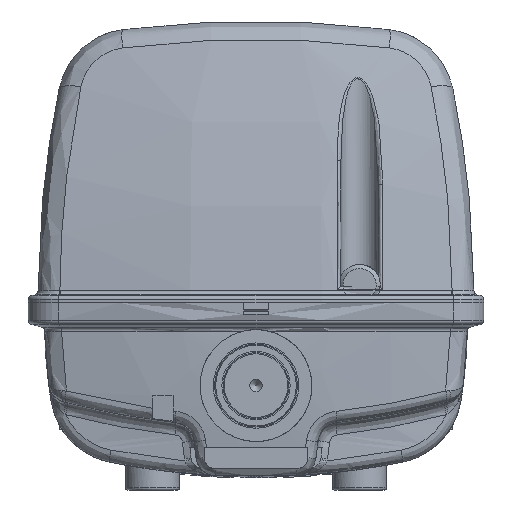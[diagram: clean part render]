
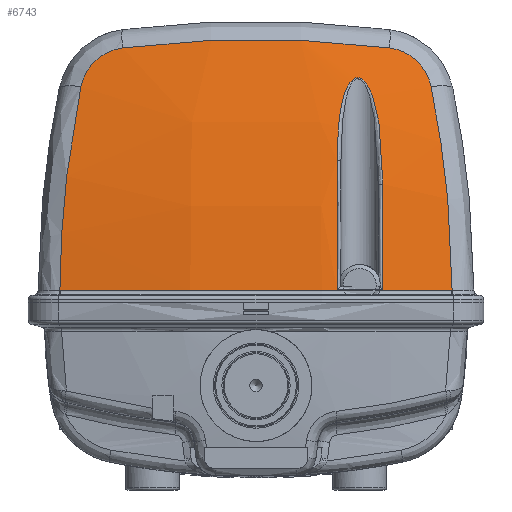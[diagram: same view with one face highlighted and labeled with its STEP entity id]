
A CAD part, front view. The second image highlights one B-rep face of the part: STEP entity #6743.
In plain terms, the highlighted free-form (B-spline) face has degree [3, 3] with [4, 4] control points.
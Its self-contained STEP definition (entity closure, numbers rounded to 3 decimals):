
#1284=(
BOUNDED_SURFACE()
B_SPLINE_SURFACE(3,3,((#81765,#81766,#81767,#81768),(#81769,#81770,#81771,
#81772),(#81773,#81774,#81775,#81776),(#81777,#81778,#81779,#81780)),
 .UNSPECIFIED.,.F.,.F.,.F.)
B_SPLINE_SURFACE_WITH_KNOTS((4,4),(4,4),(0.,1.),(0.,1.),.UNSPECIFIED.)
GEOMETRIC_REPRESENTATION_ITEM()
RATIONAL_B_SPLINE_SURFACE(((1.,0.987,0.987,1.),
(0.995,0.982,0.982,0.995),
(0.995,0.982,0.982,0.995),
(1.,0.987,0.987,1.)))
REPRESENTATION_ITEM('')
SURFACE()
);
#1578=FACE_BOUND('',#11816,.T.);
#1579=FACE_BOUND('',#11817,.T.);
#3036=B_SPLINE_CURVE_WITH_KNOTS('',3,(#73544,#73545,#73546,#73547),
 .UNSPECIFIED.,.F.,.F.,(4,4),(0.,1.),.UNSPECIFIED.);
#3038=B_SPLINE_CURVE_WITH_KNOTS('',3,(#73569,#73570,#73571,#73572,#73573,
#73574),.UNSPECIFIED.,.F.,.F.,(4,2,4),(0.,0.5,1.),.UNSPECIFIED.);
#3041=B_SPLINE_CURVE_WITH_KNOTS('',3,(#73624,#73625,#73626,#73627),
 .UNSPECIFIED.,.F.,.F.,(4,4),(0.,1.),.UNSPECIFIED.);
#3046=B_SPLINE_CURVE_WITH_KNOTS('',3,(#73664,#73665,#73666,#73667),
 .UNSPECIFIED.,.F.,.F.,(4,4),(0.,1.),.UNSPECIFIED.);
#3764=B_SPLINE_CURVE_WITH_KNOTS('',3,(#81553,#81554,#81555,#81556),
 .UNSPECIFIED.,.F.,.F.,(4,4),(0.,1.),.UNSPECIFIED.);
#3766=B_SPLINE_CURVE_WITH_KNOTS('',3,(#81576,#81577,#81578,#81579),
 .UNSPECIFIED.,.F.,.F.,(4,4),(0.,1.),.UNSPECIFIED.);
#3770=B_SPLINE_CURVE_WITH_KNOTS('',3,(#81634,#81635,#81636,#81637,#81638,
#81639,#81640,#81641,#81642,#81643,#81644,#81645,#81646,#81647,#81648,#81649,
#81650,#81651,#81652,#81653),.UNSPECIFIED.,.F.,.F.,(4,2,2,2,2,2,2,2,2,4),
(0.,0.25,0.375,0.5,0.531,
0.563,0.594,0.625,0.75,
1.),.UNSPECIFIED.);
#3773=B_SPLINE_CURVE_WITH_KNOTS('',3,(#81750,#81751,#81752,#81753,#81754,
#81755),.UNSPECIFIED.,.F.,.F.,(4,2,4),(0.,0.5,1.),.UNSPECIFIED.);
#3774=B_SPLINE_CURVE_WITH_KNOTS('',3,(#81757,#81758,#81759,#81760),
 .UNSPECIFIED.,.F.,.F.,(4,4),(0.,1.),.UNSPECIFIED.);
#3775=B_SPLINE_CURVE_WITH_KNOTS('',3,(#81761,#81762,#81763,#81764),
 .UNSPECIFIED.,.F.,.F.,(4,4),(0.,1.),.UNSPECIFIED.);
#6743=ADVANCED_FACE('',(#1578,#1579),#1284,.T.);
#11816=EDGE_LOOP('',(#24676,#24677,#24678,#24679,#24680,#24681,#24682,#24683));
#11817=EDGE_LOOP('',(#24684,#24685,#24686,#24687));
#24676=ORIENTED_EDGE('',*,*,#34556,.T.);
#24677=ORIENTED_EDGE('',*,*,#36035,.T.);
#24678=ORIENTED_EDGE('',*,*,#36036,.T.);
#24679=ORIENTED_EDGE('',*,*,#36037,.F.);
#24680=ORIENTED_EDGE('',*,*,#36034,.F.);
#24681=ORIENTED_EDGE('',*,*,#34574,.T.);
#24682=ORIENTED_EDGE('',*,*,#34568,.T.);
#24683=ORIENTED_EDGE('',*,*,#34559,.T.);
#24684=ORIENTED_EDGE('',*,*,#36011,.F.);
#24685=ORIENTED_EDGE('',*,*,#36012,.F.);
#24686=ORIENTED_EDGE('',*,*,#36025,.F.);
#24687=ORIENTED_EDGE('',*,*,#36015,.F.);
#29531=VERTEX_POINT('',#73543);
#29532=VERTEX_POINT('',#73548);
#29534=VERTEX_POINT('',#73575);
#29541=VERTEX_POINT('',#73628);
#29546=VERTEX_POINT('',#73668);
#29998=VERTEX_POINT('',#77474);
#30473=VERTEX_POINT('',#81524);
#30476=VERTEX_POINT('',#81550);
#30477=VERTEX_POINT('',#81557);
#30479=VERTEX_POINT('',#81580);
#30486=VERTEX_POINT('',#81746);
#30487=VERTEX_POINT('',#81756);
#34556=EDGE_CURVE('',#29532,#29531,#3036,.T.);
#34559=EDGE_CURVE('',#29534,#29532,#3038,.T.);
#34568=EDGE_CURVE('',#29541,#29534,#3041,.T.);
#34574=EDGE_CURVE('',#29546,#29541,#3046,.T.);
#36011=EDGE_CURVE('',#30476,#30473,#38721,.T.);
#36012=EDGE_CURVE('',#30477,#30476,#3764,.T.);
#36015=EDGE_CURVE('',#30473,#30479,#3766,.T.);
#36025=EDGE_CURVE('',#30479,#30477,#3770,.T.);
#36034=EDGE_CURVE('',#29546,#30486,#38729,.T.);
#36035=EDGE_CURVE('',#29531,#30487,#3773,.T.);
#36036=EDGE_CURVE('',#30487,#29998,#3774,.T.);
#36037=EDGE_CURVE('',#30486,#29998,#3775,.T.);
#38721=CIRCLE('',#42483,247.516);
#38729=CIRCLE('',#42499,247.534);
#42483=AXIS2_PLACEMENT_3D('',#81551,#51334,#51335);
#42499=AXIS2_PLACEMENT_3D('',#81748,#51371,#51372);
#51334=DIRECTION('',(0.,0.,1.));
#51335=DIRECTION('',(1.,0.,0.));
#51371=DIRECTION('',(0.,0.,-1.));
#51372=DIRECTION('',(1.,0.,0.));
#73543=CARTESIAN_POINT('',(-32.203,-86.543,61.506));
#73544=CARTESIAN_POINT('',(32.203,-86.543,61.506));
#73545=CARTESIAN_POINT('',(10.871,-88.564,64.275));
#73546=CARTESIAN_POINT('',(-10.871,-88.564,64.275));
#73547=CARTESIAN_POINT('',(-32.203,-86.543,61.506));
#73548=CARTESIAN_POINT('',(32.203,-86.543,61.506));
#73569=CARTESIAN_POINT('',(42.251,-87.857,52.167));
#73570=CARTESIAN_POINT('',(41.768,-87.258,54.523));
#73571=CARTESIAN_POINT('',(40.555,-86.796,56.725));
#73572=CARTESIAN_POINT('',(36.972,-86.317,60.087));
#73573=CARTESIAN_POINT('',(34.652,-86.311,61.188));
#73574=CARTESIAN_POINT('',(32.203,-86.543,61.506));
#73575=CARTESIAN_POINT('',(42.251,-87.857,52.167));
#73624=CARTESIAN_POINT('',(47.338,-95.966,2.85));
#73625=CARTESIAN_POINT('',(47.28,-94.632,19.68));
#73626=CARTESIAN_POINT('',(45.539,-91.938,36.122));
#73627=CARTESIAN_POINT('',(42.251,-87.857,52.167));
#73628=CARTESIAN_POINT('',(47.338,-95.966,2.85));
#73664=CARTESIAN_POINT('',(47.247,-95.983,2.851));
#73665=CARTESIAN_POINT('',(47.277,-95.978,2.851));
#73666=CARTESIAN_POINT('',(47.308,-95.972,2.851));
#73667=CARTESIAN_POINT('',(47.338,-95.966,2.85));
#73668=CARTESIAN_POINT('',(47.247,-95.983,2.851));
#77474=CARTESIAN_POINT('',(-47.338,-95.966,2.85));
#81524=CARTESIAN_POINT('',(30.623,-98.615,3.079));
#81550=CARTESIAN_POINT('',(19.579,-99.741,3.079));
#81551=CARTESIAN_POINT('',(0.,147.,3.079));
#81553=CARTESIAN_POINT('',(19.579,-95.226,34.43));
#81554=CARTESIAN_POINT('',(19.579,-97.394,24.085));
#81555=CARTESIAN_POINT('',(19.579,-98.902,13.616));
#81556=CARTESIAN_POINT('',(19.579,-99.741,3.079));
#81557=CARTESIAN_POINT('',(19.579,-95.226,34.43));
#81576=CARTESIAN_POINT('',(30.623,-98.615,3.079));
#81577=CARTESIAN_POINT('',(30.623,-97.928,11.658));
#81578=CARTESIAN_POINT('',(30.623,-96.799,20.181));
#81579=CARTESIAN_POINT('',(30.623,-95.226,28.642));
#81580=CARTESIAN_POINT('',(30.623,-95.226,28.642));
#81634=CARTESIAN_POINT('',(30.623,-95.226,28.642));
#81635=CARTESIAN_POINT('',(30.623,-94.459,32.764));
#81636=CARTESIAN_POINT('',(30.479,-93.606,36.872));
#81637=CARTESIAN_POINT('',(29.774,-92.239,42.966));
#81638=CARTESIAN_POINT('',(29.459,-91.768,44.987));
#81639=CARTESIAN_POINT('',(28.509,-90.83,48.961));
#81640=CARTESIAN_POINT('',(27.938,-90.339,50.967));
#81641=CARTESIAN_POINT('',(26.512,-89.878,53.105));
#81642=CARTESIAN_POINT('',(26.18,-89.794,53.519));
#81643=CARTESIAN_POINT('',(25.35,-89.693,54.163));
#81644=CARTESIAN_POINT('',(24.812,-89.686,54.379));
#81645=CARTESIAN_POINT('',(23.776,-89.839,54.222));
#81646=CARTESIAN_POINT('',(23.338,-89.979,53.898));
#81647=CARTESIAN_POINT('',(22.643,-90.266,53.15));
#81648=CARTESIAN_POINT('',(22.374,-90.416,52.725));
#81649=CARTESIAN_POINT('',(21.19,-91.169,50.495));
#81650=CARTESIAN_POINT('',(20.762,-91.749,48.528));
#81651=CARTESIAN_POINT('',(19.729,-93.402,42.562));
#81652=CARTESIAN_POINT('',(19.579,-94.369,38.514));
#81653=CARTESIAN_POINT('',(19.579,-95.226,34.43));
#81746=CARTESIAN_POINT('',(-47.247,-95.983,2.851));
#81748=CARTESIAN_POINT('',(0.,147.,2.851));
#81750=CARTESIAN_POINT('',(-32.203,-86.543,61.506));
#81751=CARTESIAN_POINT('',(-34.654,-86.311,61.187));
#81752=CARTESIAN_POINT('',(-36.988,-86.318,60.076));
#81753=CARTESIAN_POINT('',(-40.558,-86.797,56.718));
#81754=CARTESIAN_POINT('',(-41.767,-87.258,54.525));
#81755=CARTESIAN_POINT('',(-42.251,-87.857,52.167));
#81756=CARTESIAN_POINT('',(-42.251,-87.857,52.167));
#81757=CARTESIAN_POINT('',(-42.251,-87.857,52.167));
#81758=CARTESIAN_POINT('',(-45.526,-91.922,36.184));
#81759=CARTESIAN_POINT('',(-47.28,-94.638,19.613));
#81760=CARTESIAN_POINT('',(-47.338,-95.966,2.85));
#81761=CARTESIAN_POINT('',(-47.247,-95.983,2.851));
#81762=CARTESIAN_POINT('',(-47.277,-95.978,2.851));
#81763=CARTESIAN_POINT('',(-47.308,-95.972,2.851));
#81764=CARTESIAN_POINT('',(-47.338,-95.966,2.85));
#81765=CARTESIAN_POINT('',(-45.554,-83.478,63.941));
#81766=CARTESIAN_POINT('',(-15.356,-89.447,63.941));
#81767=CARTESIAN_POINT('',(15.426,-89.442,63.941));
#81768=CARTESIAN_POINT('',(45.622,-83.465,63.941));
#81769=CARTESIAN_POINT('',(-46.869,-90.132,44.039));
#81770=CARTESIAN_POINT('',(-15.8,-96.273,44.039));
#81771=CARTESIAN_POINT('',(15.871,-96.268,44.039));
#81772=CARTESIAN_POINT('',(46.939,-90.118,44.039));
#81773=CARTESIAN_POINT('',(-47.69,-94.283,23.443));
#81774=CARTESIAN_POINT('',(-16.076,-100.531,23.443));
#81775=CARTESIAN_POINT('',(16.149,-100.526,23.443));
#81776=CARTESIAN_POINT('',(47.76,-94.269,23.443));
#81777=CARTESIAN_POINT('',(-48.002,-95.865,2.479));
#81778=CARTESIAN_POINT('',(-16.182,-102.154,2.479));
#81779=CARTESIAN_POINT('',(16.255,-102.15,2.479));
#81780=CARTESIAN_POINT('',(48.073,-95.851,2.479));
